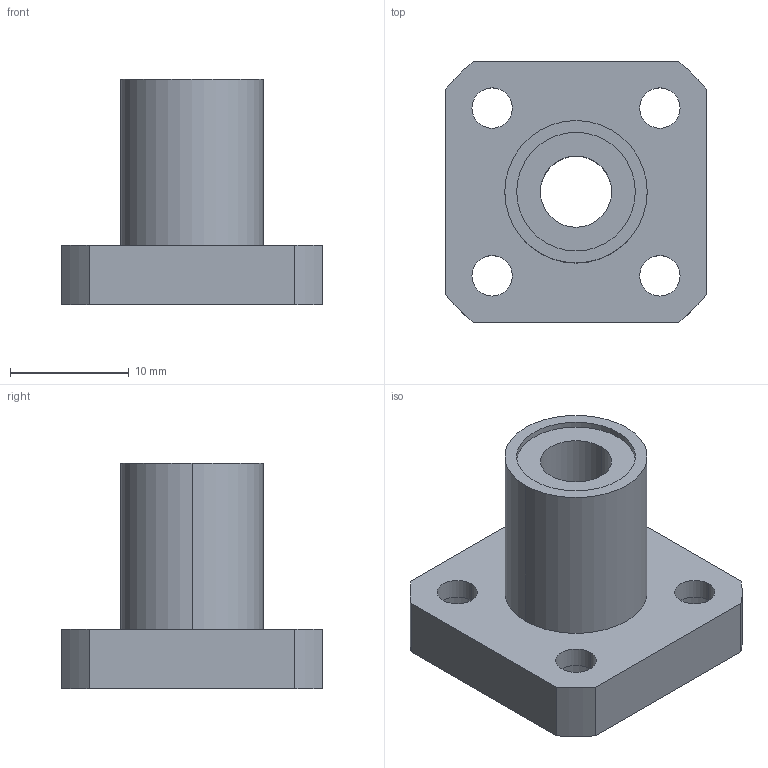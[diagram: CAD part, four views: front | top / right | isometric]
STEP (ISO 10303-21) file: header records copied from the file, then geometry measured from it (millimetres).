
FILE_DESCRIPTION((''),'2;1');
FILE_NAME('C:\Documents and Settings\ｿﾀﾀ蠑ｷ1\ｹﾙﾅﾁ ﾈｭｸ饅\ｺﾎﾇｰﾆﾄﾀﾏ\ﾁｦﾇｰ\LMK__UU\LMK6UU.stp','2005-06-15T09:45:51',('ｿﾀﾀ蠑ｷ1'),(''),'Autodesk Inventor 9','Autodesk Inventor 9','');
FILE_SCHEMA(('AUTOMOTIVE_DESIGN { 1 0 10303 214 1 1 1 1 }'));
Length unit declared in the file: millimetre
Products named in the file (1): LMK__
Bounding box: 22 x 22 x 19 mm (x, y, z)
Volume: 2823.3 mm3; surface area: 2481.5 mm2
Topology: 1 solids, 1 shells, 44 faces, 102 edges, 68 vertices
Faces by surface type: cylinder 30, plane 14
Entity records: 1329 total; most frequent: DIRECTION 252, CARTESIAN_POINT 215, ORIENTED_EDGE 204, AXIS2_PLACEMENT_3D 105, EDGE_CURVE 102, VERTEX_POINT 68, EDGE_LOOP 62, CIRCLE 60
